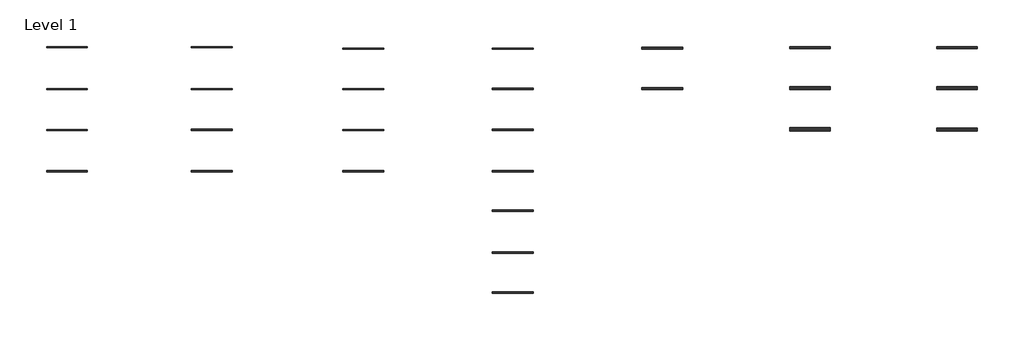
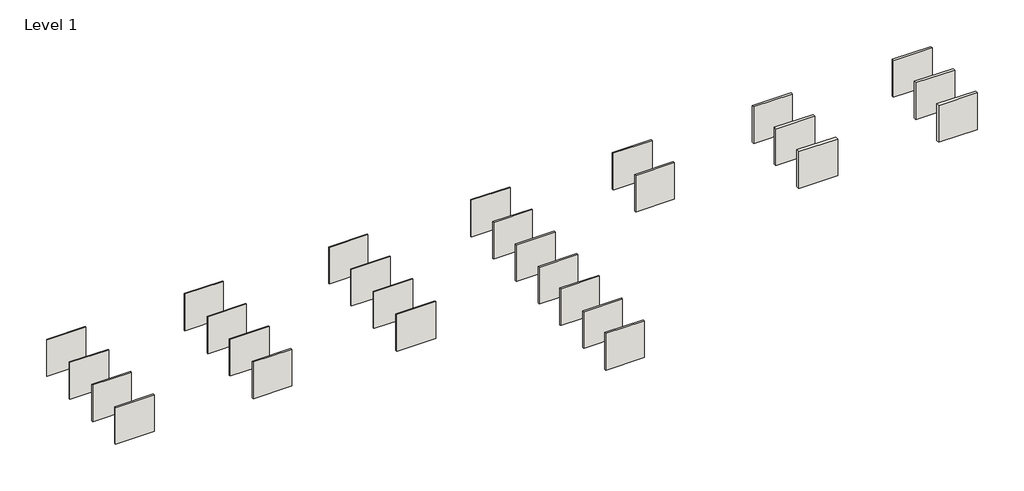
# One storey: 27 walls.
"""IFC4 building model written with IfcOpenShell, lengths in millimetres."""

from ifc_helpers import new_model, si_unit, origin, origin_with_axes, place, context, project, spatial, polyline, outline, extrude, element, save

model = new_model("IFC4")

# Units and contexts
model_context = context("Model", 3, world=origin())
ifc_project = project(units=[si_unit("LENGTHUNIT", "METRE", prefix="MILLI")], contexts=[model_context])

# Site, building, storey
site = spatial("IfcSite", under=ifc_project)
building = spatial("IfcBuilding", under=site)
storey = spatial("IfcBuildingStorey", under=building, Name="Level 1", Elevation=0.0)

# Walls
placement = place(None, origin())
element("IfcWall", 1, ObjectType="VE MR45 450 -/BB M45", at=placement, inside=storey, context=model_context, shape_type="SweptSolid", body=[
    extrude(outline(polyline([(-30440.0454301, -13048.2472419), (-34440.0454301, -13048.2472419), (-34440.0454301, -12978.2472397), (-30440.0454301, -12978.2472397), (-30440.0454301, -13048.2472419)])), origin_with_axes(), (0.0, 0.0, 1.0), 4000.0),
])
element("IfcWall", 2, ObjectType="VE MR70 450 -/BB M45", at=placement, inside=storey, context=model_context, shape_type="SweptSolid", body=[
    extrude(outline(polyline([(-30440.0454301, -17158.8161204), (-34440.0454301, -17158.8161204), (-34440.0454301, -17063.8161173), (-30440.0454301, -17063.8161173), (-30440.0454301, -17158.8161204)])), origin_with_axes(), (0.0, 0.0, 1.0), 4000.0),
])
element("IfcWall", 3, ObjectType="VE MR95 450 -/BB M45", at=placement, inside=storey, context=model_context, shape_type="SweptSolid", body=[
    extrude(outline(polyline([(-30440.0454301, -21193.9758356), (-34440.0454301, -21193.9758356), (-34440.0454301, -21073.9758317), (-30440.0454301, -21073.9758317), (-30440.0454301, -21193.9758356)])), origin_with_axes(), (0.0, 0.0, 1.0), 4000.0),
])
element("IfcWall", 4, ObjectType="VE MR120 450 -/BB M45", at=placement, inside=storey, context=model_context, shape_type="SweptSolid", body=[
    extrude(outline(polyline([(-30440.0454301, -25264.5316886), (-34440.0454301, -25264.5316886), (-34440.0454301, -25119.531684), (-30440.0454301, -25119.531684), (-30440.0454301, -25264.5316886)])), origin_with_axes(), (0.0, 0.0, 1.0), 4000.0),
])
element("IfcWall", 5, ObjectType="VE MR45 450 -/BBB M45", at=placement, inside=storey, context=model_context, shape_type="SweptSolid", body=[
    extrude(outline(polyline([(-16246.1941512, -13048.2472419), (-20246.1941512, -13048.2472419), (-20246.1941512, -12963.2472392), (-16246.1941512, -12963.2472392), (-16246.1941512, -13048.2472419)])), origin_with_axes(), (0.0, 0.0, 1.0), 4000.0),
])
element("IfcWall", 6, ObjectType="VE MR70 450 -/BBB M45", at=placement, inside=storey, context=model_context, shape_type="SweptSolid", body=[
    extrude(outline(polyline([(-16246.1941512, -17158.8161204), (-20246.1941512, -17158.8161204), (-20246.1941512, -17048.8161169), (-16246.1941512, -17048.8161169), (-16246.1941512, -17158.8161204)])), origin_with_axes(), (0.0, 0.0, 1.0), 4000.0),
])
element("IfcWall", 7, ObjectType="VE MR95 450 -/BBB M45", at=placement, inside=storey, context=model_context, shape_type="SweptSolid", body=[
    extrude(outline(polyline([(-16246.1941512, -21193.9758356), (-20246.1941512, -21193.9758356), (-20246.1941512, -21058.9758313), (-16246.1941512, -21058.9758313), (-16246.1941512, -21193.9758356)])), origin_with_axes(), (0.0, 0.0, 1.0), 4000.0),
])
element("IfcWall", 8, ObjectType="VE MR120 450 -/BBB M45", at=placement, inside=storey, context=model_context, shape_type="SweptSolid", body=[
    extrude(outline(polyline([(-16246.1941512, -25264.5316886), (-20246.1941512, -25264.5316886), (-20246.1941512, -25104.5316835), (-16246.1941512, -25104.5316835), (-16246.1941512, -25264.5316886)])), origin_with_axes(), (0.0, 0.0, 1.0), 4000.0),
])
element("IfcWall", 9, ObjectType="VE MR45 450 B/B M45", at=placement, inside=storey, context=model_context, shape_type="SweptSolid", body=[
    extrude(outline(polyline([(-1431.690286, -13178.6999733), (-5431.690286, -13178.6999733), (-5431.690286, -13108.6999711), (-1431.690286, -13108.6999711), (-1431.690286, -13178.6999733)])), origin_with_axes(), (0.0, 0.0, 1.0), 4000.0),
])
element("IfcWall", 10, ObjectType="VE MR70 450 B/B M45", at=placement, inside=storey, context=model_context, shape_type="SweptSolid", body=[
    extrude(outline(polyline([(-1431.690286, -17158.8161204), (-5431.690286, -17158.8161204), (-5431.690286, -17063.8161173), (-1431.690286, -17063.8161173), (-1431.690286, -17158.8161204)])), origin_with_axes(), (0.0, 0.0, 1.0), 4000.0),
])
element("IfcWall", 11, ObjectType="VE MR95 450 B/B M45", at=placement, inside=storey, context=model_context, shape_type="SweptSolid", body=[
    extrude(outline(polyline([(-1431.690286, -21193.9758356), (-5431.690286, -21193.9758356), (-5431.690286, -21073.9758317), (-1431.690286, -21073.9758317), (-1431.690286, -21193.9758356)])), origin_with_axes(), (0.0, 0.0, 1.0), 4000.0),
])
element("IfcWall", 12, ObjectType="VE MR120 450 B/B M45", at=placement, inside=storey, context=model_context, shape_type="SweptSolid", body=[
    extrude(outline(polyline([(-1431.690286, -25264.5316886), (-5431.690286, -25264.5316886), (-5431.690286, -25119.531684), (-1431.690286, -25119.531684), (-1431.690286, -25264.5316886)])), origin_with_axes(), (0.0, 0.0, 1.0), 4000.0),
])
element("IfcWall", 13, ObjectType="VE MR45 450 BB/BB M45", at=placement, inside=storey, context=model_context, shape_type="SweptSolid", body=[
    extrude(outline(polyline([(13231.3175631, -13178.6999733), (9231.3175631, -13178.6999733), (9231.3175631, -13083.6999703), (13231.3175631, -13083.6999703), (13231.3175631, -13178.6999733)])), origin_with_axes(), (0.0, 0.0, 1.0), 4000.0),
])
element("IfcWall", 14, ObjectType="VE MR70 450 BB/BB M45", at=placement, inside=storey, context=model_context, shape_type="SweptSolid", body=[
    extrude(outline(polyline([(13231.3175631, -17158.8161204), (9231.3175631, -17158.8161204), (9231.3175631, -17038.8161165), (13231.3175631, -17038.8161165), (13231.3175631, -17158.8161204)])), origin_with_axes(), (0.0, 0.0, 1.0), 4000.0),
])
element("IfcWall", 15, ObjectType="VE MR95 450 BB/BB M45", at=placement, inside=storey, context=model_context, shape_type="SweptSolid", body=[
    extrude(outline(polyline([(13231.3175631, -21193.9758356), (9231.3175631, -21193.9758356), (9231.3175631, -21048.9758309), (13231.3175631, -21048.9758309), (13231.3175631, -21193.9758356)])), origin_with_axes(), (0.0, 0.0, 1.0), 4000.0),
])
element("IfcWall", 16, ObjectType="VE MR120 450 BB/BB M45", at=placement, inside=storey, context=model_context, shape_type="SweptSolid", body=[
    extrude(outline(polyline([(13231.3175631, -25264.5316886), (9231.3175631, -25264.5316886), (9231.3175631, -25094.5316832), (13231.3175631, -25094.5316832), (13231.3175631, -25264.5316886)])), origin_with_axes(), (0.0, 0.0, 1.0), 4000.0),
])
element("IfcWall", 17, ObjectType="VE MR70+ 450 BB/BB MS", at=placement, inside=storey, context=model_context, shape_type="SweptSolid", body=[
    extrude(outline(polyline([(13231.3175631, -29114.7471783), (9231.3175631, -29114.7471783), (9231.3175631, -28994.7471744), (13231.3175631, -28994.7471744), (13231.3175631, -29114.7471783)])), origin_with_axes(), (0.0, 0.0, 1.0), 4000.0),
])
element("IfcWall", 18, ObjectType="VE MR95+ 450 BB/BB MS", at=placement, inside=storey, context=model_context, shape_type="SweptSolid", body=[
    extrude(outline(polyline([(13231.3175631, -33227.7783967), (9231.3175631, -33227.7783967), (9231.3175631, -33082.7783921), (13231.3175631, -33082.7783921), (13231.3175631, -33227.7783967)])), origin_with_axes(), (0.0, 0.0, 1.0), 4000.0),
])
element("IfcWall", 19, ObjectType="VE MR120+ 450 BB/BB MS", at=placement, inside=storey, context=model_context, shape_type="SweptSolid", body=[
    extrude(outline(polyline([(13231.3175631, -37156.7496984), (9231.3175631, -37156.7496984), (9231.3175631, -36986.7496929), (13231.3175631, -36986.7496929), (13231.3175631, -37156.7496984)])), origin_with_axes(), (0.0, 0.0, 1.0), 4000.0),
])
element("IfcWall", 20, ObjectType="VE MR95 450 IB/BI M95", at=placement, inside=storey, context=model_context, shape_type="SweptSolid", body=[
    extrude(outline(polyline([(27865.5792745, -13178.6999733), (23865.5792745, -13178.6999733), (23865.5792745, -13028.6999685), (27865.5792745, -13028.6999685), (27865.5792745, -13178.6999733)])), origin_with_axes(), (0.0, 0.0, 1.0), 4000.0),
])
element("IfcWall", 21, ObjectType="VE MR120 450 IB/BI M95", at=placement, inside=storey, context=model_context, shape_type="SweptSolid", body=[
    extrude(outline(polyline([(27865.5792745, -17158.8161204), (23865.5792745, -17158.8161204), (23865.5792745, -16983.8161148), (27865.5792745, -16983.8161148), (27865.5792745, -17158.8161204)])), origin_with_axes(), (0.0, 0.0, 1.0), 4000.0),
])
element("IfcWall", 22, ObjectType="VD MR70 450 BB/BB M140", at=placement, inside=storey, context=model_context, shape_type="SweptSolid", body=[
    extrude(outline(polyline([(42338.7060811, -13167.3712302), (38338.7060811, -13167.3712302), (38338.7060811, -12937.3712228), (42338.7060811, -12937.3712228), (42338.7060811, -13167.3712302)])), origin_with_axes(), (0.0, 0.0, 1.0), 4000.0),
])
element("IfcWall", 23, ObjectType="VD MR95 450 BB/BB M140", at=placement, inside=storey, context=model_context, shape_type="SweptSolid", body=[
    extrude(outline(polyline([(42338.7060811, -17158.8161204), (38338.7060811, -17158.8161204), (38338.7060811, -16858.8161108), (42338.7060811, -16858.8161108), (42338.7060811, -17158.8161204)])), origin_with_axes(), (0.0, 0.0, 1.0), 4000.0),
])
element("IfcWall", 24, ObjectType="VD MR120 450 BB/BB M140", at=placement, inside=storey, context=model_context, shape_type="SweptSolid", body=[
    extrude(outline(polyline([(42338.7060811, -21257.1585364), (38338.7060811, -21257.1585364), (38338.7060811, -20907.1585252), (42338.7060811, -20907.1585252), (42338.7060811, -21257.1585364)])), origin_with_axes(), (0.0, 0.0, 1.0), 4000.0),
])
element("IfcWall", 25, ObjectType="VD MR70 450 BBB/BBB M140", at=placement, inside=storey, context=model_context, shape_type="SweptSolid", body=[
    extrude(outline(polyline([(56742.9422252, -13167.3712302), (52742.9422252, -13167.3712302), (52742.9422252, -12942.371223), (56742.9422252, -12942.371223), (56742.9422252, -13167.3712302)])), origin_with_axes(), (0.0, 0.0, 1.0), 4000.0),
])
element("IfcWall", 26, ObjectType="VD MR95 450 BBB/BBB M140", at=placement, inside=storey, context=model_context, shape_type="SweptSolid", body=[
    extrude(outline(polyline([(56742.9422252, -17158.8161204), (52742.9422252, -17158.8161204), (52742.9422252, -16893.8161119), (56742.9422252, -16893.8161119), (56742.9422252, -17158.8161204)])), origin_with_axes(), (0.0, 0.0, 1.0), 4000.0),
])
element("IfcWall", 27, ObjectType="VD MR120 450 BBB/BBB M140", at=placement, inside=storey, context=model_context, shape_type="SweptSolid", body=[
    extrude(outline(polyline([(56742.9422252, -21257.1585364), (52742.9422252, -21257.1585364), (52742.9422252, -20942.1585263), (56742.9422252, -20942.1585263), (56742.9422252, -21257.1585364)])), origin_with_axes(), (0.0, 0.0, 1.0), 4000.0),
])

save(model, "model.ifc")
